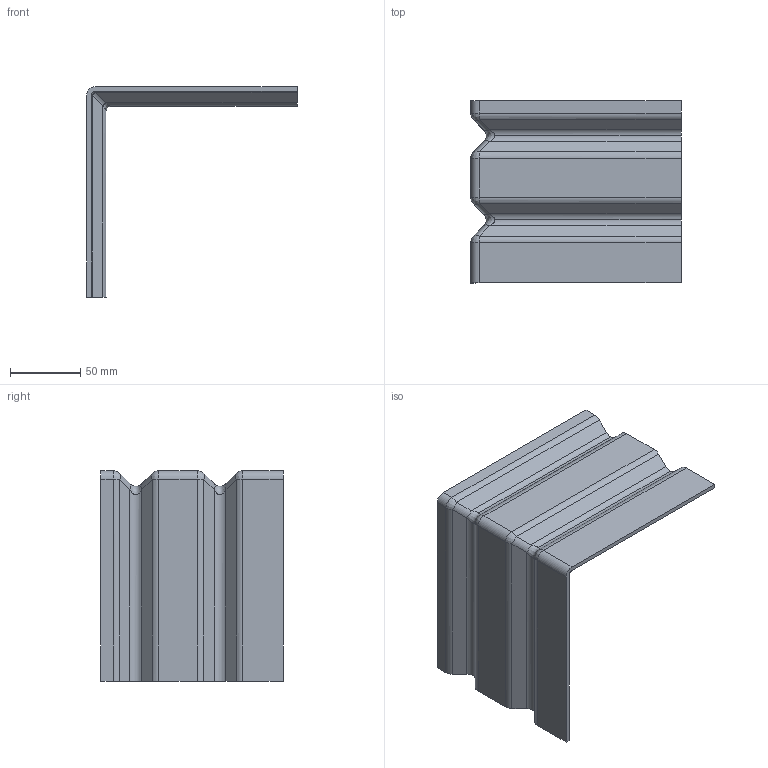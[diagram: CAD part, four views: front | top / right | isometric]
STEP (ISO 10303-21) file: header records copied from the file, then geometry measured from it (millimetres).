
FILE_DESCRIPTION (( 'STEP AP203' ), '1' );
FILE_NAME ('Sparklist H 130 innerhörn.STEP', '2014-09-29T05:22:05', ( '' ), ( '' ), 'SwSTEP 2.0', 'SolidWorks 2014', '' );
FILE_SCHEMA (( 'CONFIG_CONTROL_DESIGN' ));
Length unit declared in the file: millimetre
Products named in the file (1): Sparklist H 130 innerhörn
Bounding box: 150 x 130 x 150 mm (x, y, z)
Volume: 126760.9 mm3; surface area: 87154.1 mm2
Topology: 1 solids, 1 shells, 86 faces, 204 edges, 120 vertices
Faces by surface type: cylinder 42, plane 32, bspline 12
Entity records: 2989 total; most frequent: CARTESIAN_POINT 1035, ORIENTED_EDGE 408, DIRECTION 382, EDGE_CURVE 204, AXIS2_PLACEMENT_3D 131, VECTOR 120, VERTEX_POINT 120, LINE 120
